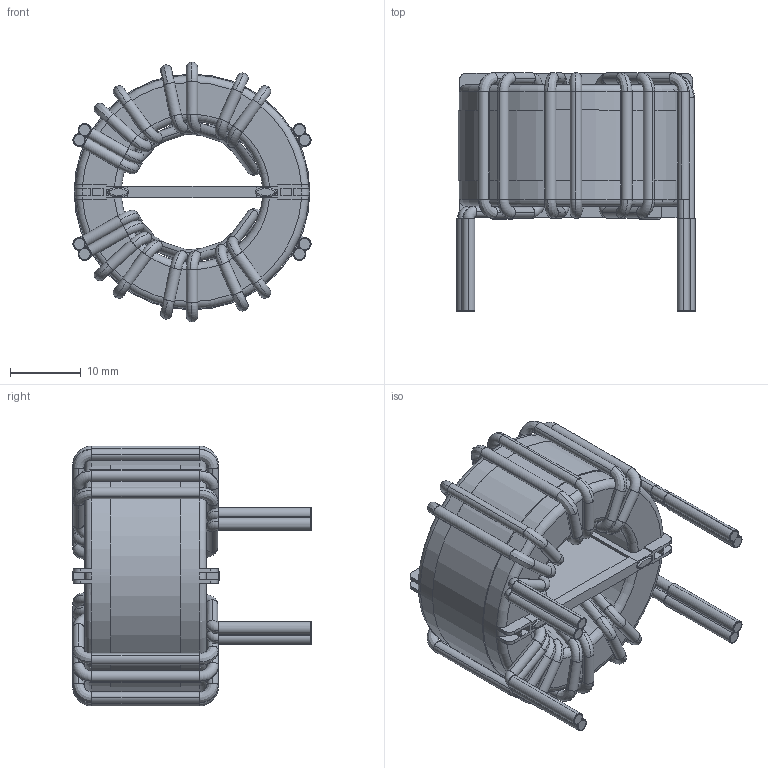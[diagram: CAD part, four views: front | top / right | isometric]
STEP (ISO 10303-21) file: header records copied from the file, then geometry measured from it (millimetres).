
FILE_DESCRIPTION (( 'STEP AP203' ), '1' );
FILE_NAME ('HN-H-142U-27A.STEP', '2020-07-11T07:45:07', ( 'Windows User' ), ( '' ), 'SwSTEP 2.0', 'SolidWorks 2015', '' );
FILE_SCHEMA (( 'CONFIG_CONTROL_DESIGN' ));
Length unit declared in the file: inch
Products named in the file (4): HN-H-142U-27A - FRAME; HN-H-142U-27A - COIL; HN-H-142U-27A - CORE; HN-H-142U-27A
Assembly tree (3 placements, depth 2):
  HN-H-142U-27A
    HN-H-142U-27A - CORE
    HN-H-142U-27A - COIL
    HN-H-142U-27A - FRAME
Bounding box: 33.68 x 33.83 x 36.76 mm (x, y, z)
Volume: 12140.2 mm3; surface area: 12766.4 mm2
Topology: 23 solids, 23 shells, 559 faces, 1473 edges, 962 vertices
Faces by surface type: cylinder 179, torus 164, plane 152, bspline 64
Entity records: 21555 total; most frequent: CARTESIAN_POINT 7136, DIRECTION 3149, ORIENTED_EDGE 2946, EDGE_CURVE 1473, AXIS2_PLACEMENT_3D 1323, VERTEX_POINT 962, CIRCLE 822, EDGE_LOOP 565
